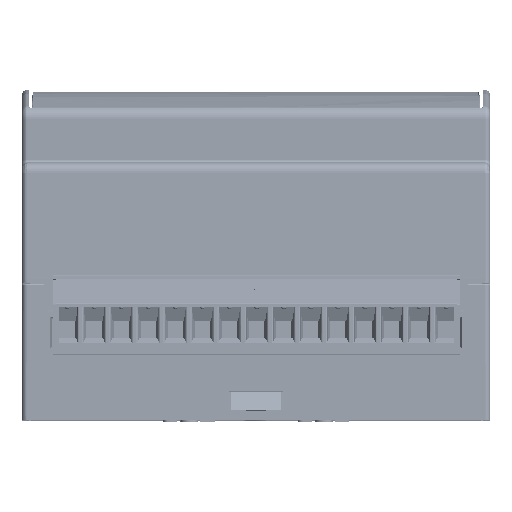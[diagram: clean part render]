
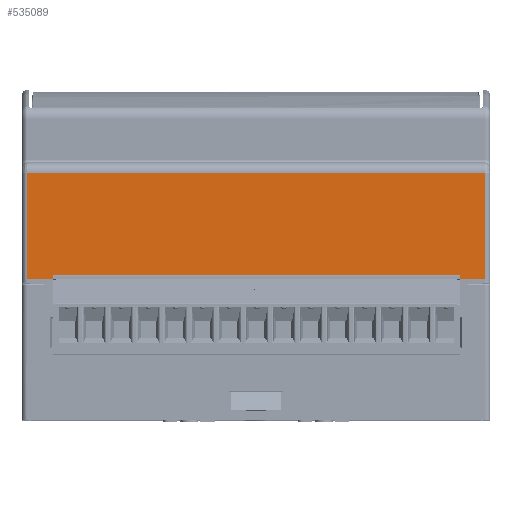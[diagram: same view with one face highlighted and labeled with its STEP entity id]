
A CAD part, top view. The second image highlights one B-rep face of the part: STEP entity #535089.
In plain terms, the highlighted planar face has unit normal (0, 0.01, 1) as drawn and (-1, 0.01, 0) by its records, which use the part's own axes.
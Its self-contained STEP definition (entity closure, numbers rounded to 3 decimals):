
#528152 = PLANE('',#528153);
#528153 = AXIS2_PLACEMENT_3D('',#528154,#528155,#528156);
#528154 = CARTESIAN_POINT('',(23.8,26.105,43.907));
#528155 = DIRECTION('',(1.,0.,0.));
#528156 = DIRECTION('',(0.,0.,1.));
#529207 = CYLINDRICAL_SURFACE('',#529208,1.);
#529208 = AXIS2_PLACEMENT_3D('',#529209,#529210,#529211);
#529209 = CARTESIAN_POINT('',(24.9,36.388,1.));
#529210 = DIRECTION('',(-0.01,-1.,0.));
#529211 = DIRECTION('',(0.,0.,
    -1.));
#530047 = VERTEX_POINT('',#530048);
#530048 = CARTESIAN_POINT('',(23.8,26.465,1.));
#530069 = EDGE_CURVE('',#530047,#530070,#530072,.T.);
#530070 = VERTEX_POINT('',#530071);
#530071 = CARTESIAN_POINT('',(23.8,26.464,1.2));
#530072 = SURFACE_CURVE('',#530073,(#530078,#530086),.PCURVE_S1.);
#530073 = B_SPLINE_CURVE_WITH_KNOTS('',3,(#530074,#530075,#530076,
    #530077),.UNSPECIFIED.,.F.,.F.,(4,4),(0.,1.),
  .PIECEWISE_BEZIER_KNOTS.);
#530074 = CARTESIAN_POINT('',(23.8,26.465,1.));
#530075 = CARTESIAN_POINT('',(23.8,26.465,
    1.067));
#530076 = CARTESIAN_POINT('',(23.8,26.464,
    1.133));
#530077 = CARTESIAN_POINT('',(23.8,26.464,1.2));
#530078 = PCURVE('',#528152,#530079);
#530079 = DEFINITIONAL_REPRESENTATION('',(#530080),#530085);
#530080 = B_SPLINE_CURVE_WITH_KNOTS('',3,(#530081,#530082,#530083,
    #530084),.UNSPECIFIED.,.F.,.F.,(4,4),(0.,1.),
  .PIECEWISE_BEZIER_KNOTS.);
#530081 = CARTESIAN_POINT('',(-42.907,-0.361));
#530082 = CARTESIAN_POINT('',(-42.84,-0.361));
#530083 = CARTESIAN_POINT('',(-42.774,-0.36));
#530084 = CARTESIAN_POINT('',(-42.707,-0.36));
#530085 = ( GEOMETRIC_REPRESENTATION_CONTEXT(2) 
PARAMETRIC_REPRESENTATION_CONTEXT() REPRESENTATION_CONTEXT('2D SPACE',''
  ) );
#530086 = PCURVE('',#530087,#530092);
#530087 = PLANE('',#530088);
#530088 = AXIS2_PLACEMENT_3D('',#530089,#530090,#530091);
#530089 = CARTESIAN_POINT('',(23.9,36.393,43.907));
#530090 = DIRECTION('',(1.,-0.01,0.));
#530091 = DIRECTION('',(0.,0.,1.));
#530092 = DEFINITIONAL_REPRESENTATION('',(#530093),#530098);
#530093 = B_SPLINE_CURVE_WITH_KNOTS('',3,(#530094,#530095,#530096,
    #530097),.UNSPECIFIED.,.F.,.F.,(4,4),(0.,1.),
  .PIECEWISE_BEZIER_KNOTS.);
#530094 = CARTESIAN_POINT('',(-42.907,9.928));
#530095 = CARTESIAN_POINT('',(-42.84,9.928));
#530096 = CARTESIAN_POINT('',(-42.774,9.929));
#530097 = CARTESIAN_POINT('',(-42.707,9.929));
#530098 = ( GEOMETRIC_REPRESENTATION_CONTEXT(2) 
PARAMETRIC_REPRESENTATION_CONTEXT() REPRESENTATION_CONTEXT('2D SPACE',''
  ) );
#530100 = EDGE_CURVE('',#530101,#530070,#530103,.T.);
#530101 = VERTEX_POINT('',#530102);
#530102 = CARTESIAN_POINT('',(23.8,26.464,
    86.615));
#530103 = SURFACE_CURVE('',#530104,(#530108,#530115),.PCURVE_S1.);
#530104 = LINE('',#530105,#530106);
#530105 = CARTESIAN_POINT('',(23.8,26.464,
    86.615));
#530106 = VECTOR('',#530107,1.);
#530107 = DIRECTION('',(0.,0.,-1.
    ));
#530108 = PCURVE('',#528152,#530109);
#530109 = DEFINITIONAL_REPRESENTATION('',(#530110),#530114);
#530110 = LINE('',#530111,#530112);
#530111 = CARTESIAN_POINT('',(42.708,-0.359));
#530112 = VECTOR('',#530113,1.);
#530113 = DIRECTION('',(-1.,0.));
#530114 = ( GEOMETRIC_REPRESENTATION_CONTEXT(2) 
PARAMETRIC_REPRESENTATION_CONTEXT() REPRESENTATION_CONTEXT('2D SPACE',''
  ) );
#530115 = PCURVE('',#530087,#530116);
#530116 = DEFINITIONAL_REPRESENTATION('',(#530117),#530121);
#530117 = LINE('',#530118,#530119);
#530118 = CARTESIAN_POINT('',(42.708,9.929));
#530119 = VECTOR('',#530120,1.);
#530120 = DIRECTION('',(-1.,0.));
#530121 = ( GEOMETRIC_REPRESENTATION_CONTEXT(2) 
PARAMETRIC_REPRESENTATION_CONTEXT() REPRESENTATION_CONTEXT('2D SPACE',''
  ) );
#530123 = EDGE_CURVE('',#530101,#530124,#530126,.T.);
#530124 = VERTEX_POINT('',#530125);
#530125 = CARTESIAN_POINT('',(23.8,26.465,86.814));
#530126 = SURFACE_CURVE('',#530127,(#530131,#530138),.PCURVE_S1.);
#530127 = LINE('',#530128,#530129);
#530128 = CARTESIAN_POINT('',(23.8,26.464,
    86.615));
#530129 = VECTOR('',#530130,1.);
#530130 = DIRECTION('',(0.,0.007,
    1.));
#530131 = PCURVE('',#528152,#530132);
#530132 = DEFINITIONAL_REPRESENTATION('',(#530133),#530137);
#530133 = LINE('',#530134,#530135);
#530134 = CARTESIAN_POINT('',(42.708,-0.359));
#530135 = VECTOR('',#530136,1.);
#530136 = DIRECTION('',(1.,-0.007));
#530137 = ( GEOMETRIC_REPRESENTATION_CONTEXT(2) 
PARAMETRIC_REPRESENTATION_CONTEXT() REPRESENTATION_CONTEXT('2D SPACE',''
  ) );
#530138 = PCURVE('',#530087,#530139);
#530139 = DEFINITIONAL_REPRESENTATION('',(#530140),#530144);
#530140 = LINE('',#530141,#530142);
#530141 = CARTESIAN_POINT('',(42.708,9.929));
#530142 = VECTOR('',#530143,1.);
#530143 = DIRECTION('',(1.,-0.007));
#530144 = ( GEOMETRIC_REPRESENTATION_CONTEXT(2) 
PARAMETRIC_REPRESENTATION_CONTEXT() REPRESENTATION_CONTEXT('2D SPACE',''
  ) );
#530207 = EDGE_CURVE('',#530208,#530047,#530210,.T.);
#530208 = VERTEX_POINT('',#530209);
#530209 = CARTESIAN_POINT('',(24.,46.32,
    1.));
#530210 = SURFACE_CURVE('',#530211,(#530215,#530222),.PCURVE_S1.);
#530211 = LINE('',#530212,#530213);
#530212 = CARTESIAN_POINT('',(24.,46.32,
    1.));
#530213 = VECTOR('',#530214,1.);
#530214 = DIRECTION('',(-0.01,-1.,0.)
  );
#530215 = PCURVE('',#529207,#530216);
#530216 = DEFINITIONAL_REPRESENTATION('',(#530217),#530221);
#530217 = LINE('',#530218,#530219);
#530218 = CARTESIAN_POINT('',(4.712,-9.923));
#530219 = VECTOR('',#530220,1.);
#530220 = DIRECTION('',(0.,1.));
#530221 = ( GEOMETRIC_REPRESENTATION_CONTEXT(2) 
PARAMETRIC_REPRESENTATION_CONTEXT() REPRESENTATION_CONTEXT('2D SPACE',''
  ) );
#530222 = PCURVE('',#530087,#530223);
#530223 = DEFINITIONAL_REPRESENTATION('',(#530224),#530228);
#530224 = LINE('',#530225,#530226);
#530225 = CARTESIAN_POINT('',(-42.907,-9.928));
#530226 = VECTOR('',#530227,1.);
#530227 = DIRECTION('',(0.,1.));
#530228 = ( GEOMETRIC_REPRESENTATION_CONTEXT(2) 
PARAMETRIC_REPRESENTATION_CONTEXT() REPRESENTATION_CONTEXT('2D SPACE',''
  ) );
#530319 = CYLINDRICAL_SURFACE('',#530320,2.);
#530320 = AXIS2_PLACEMENT_3D('',#530321,#530322,#530323);
#530321 = CARTESIAN_POINT('',(26.,46.3,43.907));
#530322 = DIRECTION('',(0.,0.,-1.));
#530323 = DIRECTION('',(0.,1.,0.));
#534463 = CYLINDRICAL_SURFACE('',#534464,1.);
#534464 = AXIS2_PLACEMENT_3D('',#534465,#534466,#534467);
#534465 = CARTESIAN_POINT('',(24.9,36.388,86.814));
#534466 = DIRECTION('',(-0.01,-1.,0.));
#534467 = DIRECTION('',(-1.,0.01,0.));
#534876 = EDGE_CURVE('',#530124,#534877,#534879,.T.);
#534877 = VERTEX_POINT('',#534878);
#534878 = CARTESIAN_POINT('',(24.,46.32,86.814));
#534879 = SURFACE_CURVE('',#534880,(#534884,#534891),.PCURVE_S1.);
#534880 = LINE('',#534881,#534882);
#534881 = CARTESIAN_POINT('',(23.8,26.465,86.814));
#534882 = VECTOR('',#534883,1.);
#534883 = DIRECTION('',(0.01,1.,0.));
#534884 = PCURVE('',#534463,#534885);
#534885 = DEFINITIONAL_REPRESENTATION('',(#534886),#534890);
#534886 = LINE('',#534887,#534888);
#534887 = CARTESIAN_POINT('',(6.283,9.933));
#534888 = VECTOR('',#534889,1.);
#534889 = DIRECTION('',(0.,-1.));
#534890 = ( GEOMETRIC_REPRESENTATION_CONTEXT(2) 
PARAMETRIC_REPRESENTATION_CONTEXT() REPRESENTATION_CONTEXT('2D SPACE',''
  ) );
#534891 = PCURVE('',#530087,#534892);
#534892 = DEFINITIONAL_REPRESENTATION('',(#534893),#534897);
#534893 = LINE('',#534894,#534895);
#534894 = CARTESIAN_POINT('',(42.907,9.928));
#534895 = VECTOR('',#534896,1.);
#534896 = DIRECTION('',(0.,-1.));
#534897 = ( GEOMETRIC_REPRESENTATION_CONTEXT(2) 
PARAMETRIC_REPRESENTATION_CONTEXT() REPRESENTATION_CONTEXT('2D SPACE',''
  ) );
#535069 = EDGE_CURVE('',#530208,#534877,#535070,.T.);
#535070 = SURFACE_CURVE('',#535071,(#535075,#535082),.PCURVE_S1.);
#535071 = LINE('',#535072,#535073);
#535072 = CARTESIAN_POINT('',(24.,46.32,
    1.));
#535073 = VECTOR('',#535074,1.);
#535074 = DIRECTION('',(0.,0.,1.));
#535075 = PCURVE('',#530319,#535076);
#535076 = DEFINITIONAL_REPRESENTATION('',(#535077),#535081);
#535077 = LINE('',#535078,#535079);
#535078 = CARTESIAN_POINT('',(4.722,42.907));
#535079 = VECTOR('',#535080,1.);
#535080 = DIRECTION('',(0.,-1.));
#535081 = ( GEOMETRIC_REPRESENTATION_CONTEXT(2) 
PARAMETRIC_REPRESENTATION_CONTEXT() REPRESENTATION_CONTEXT('2D SPACE',''
  ) );
#535082 = PCURVE('',#530087,#535083);
#535083 = DEFINITIONAL_REPRESENTATION('',(#535084),#535088);
#535084 = LINE('',#535085,#535086);
#535085 = CARTESIAN_POINT('',(-42.907,-9.928));
#535086 = VECTOR('',#535087,1.);
#535087 = DIRECTION('',(1.,0.));
#535088 = ( GEOMETRIC_REPRESENTATION_CONTEXT(2) 
PARAMETRIC_REPRESENTATION_CONTEXT() REPRESENTATION_CONTEXT('2D SPACE',''
  ) );
#535089 = ADVANCED_FACE('',(#535090),#530087,.F.);
#535090 = FACE_BOUND('',#535091,.F.);
#535091 = EDGE_LOOP('',(#535092,#535093,#535094,#535095,#535096,#535097)
  );
#535092 = ORIENTED_EDGE('',*,*,#530207,.F.);
#535093 = ORIENTED_EDGE('',*,*,#535069,.T.);
#535094 = ORIENTED_EDGE('',*,*,#534876,.F.);
#535095 = ORIENTED_EDGE('',*,*,#530123,.F.);
#535096 = ORIENTED_EDGE('',*,*,#530100,.T.);
#535097 = ORIENTED_EDGE('',*,*,#530069,.F.);
